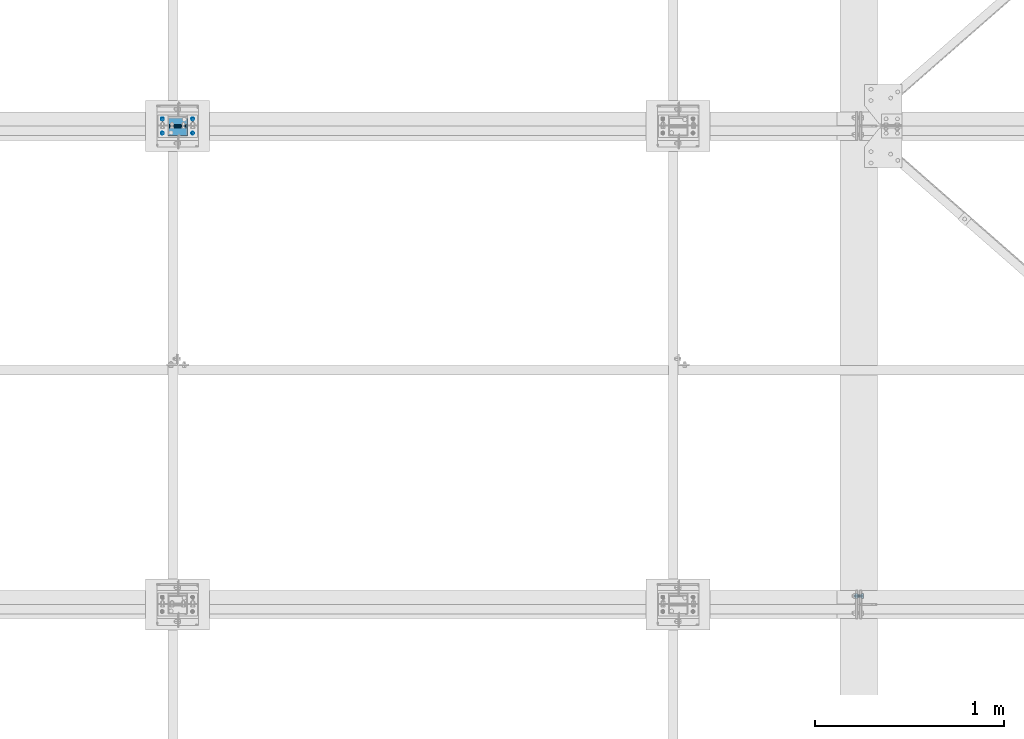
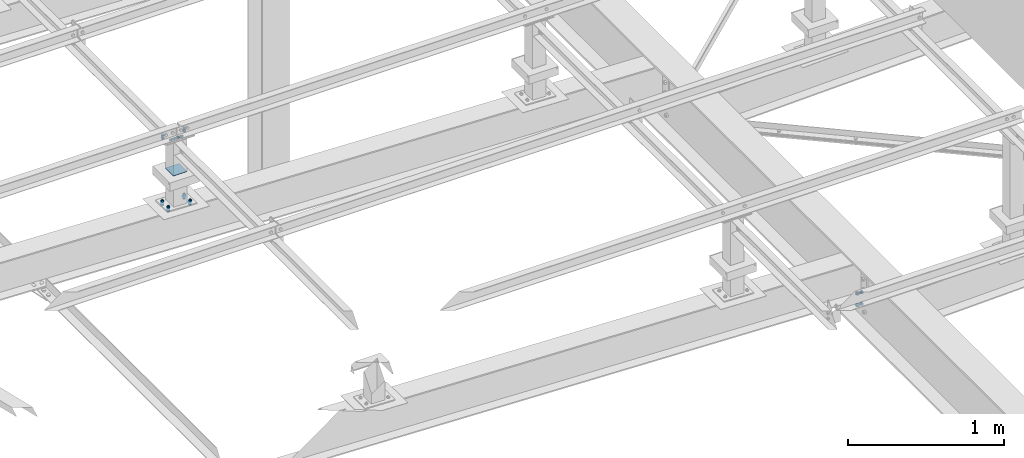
# One storey, part 79 of 3134: 6 mechanical fasteners, 4 elements without a shape of their own.
"""IFC2X3 building model written with IfcOpenShell, lengths in millimetres."""

from ifc_helpers import new_model, si_unit, frame, origin_with_axes, place, context, subcontext, project, spatial, faceted_brep, source, transform, mapped, material, type_object, element, aggregate, save


model = new_model("IFC2X3")

# Units and contexts
model_context = context("Model", 3, precision=1e-05, world=origin_with_axes())
body_context = subcontext(model_context, "Body", "Model", "MODEL_VIEW")
ifc_project = project(units=[si_unit("LENGTHUNIT", "METRE", prefix="MILLI"), si_unit("AREAUNIT", "SQUARE_METRE"), si_unit("VOLUMEUNIT", "CUBIC_METRE"), si_unit("MASSUNIT", "GRAM", prefix="KILO"), si_unit("TIMEUNIT", "SECOND"), si_unit("PLANEANGLEUNIT", "RADIAN"), si_unit("SOLIDANGLEUNIT", "STERADIAN"), si_unit("THERMODYNAMICTEMPERATUREUNIT", "DEGREE_CELSIUS"), si_unit("LUMINOUSINTENSITYUNIT", "LUMEN")], contexts=[model_context])

# Site, building, storey
site_placement = place(None, origin_with_axes())
site = spatial("IfcSite", under=ifc_project, at=site_placement, CompositionType="ELEMENT")
building_placement = place(site_placement, origin_with_axes())
building = spatial("IfcBuilding", under=site, at=building_placement, Name="Undefined", CompositionType="ELEMENT")
storey_placement = place(building_placement, origin_with_axes())
storey = spatial("IfcBuildingStorey", under=building, at=storey_placement, Name="Undefined", CompositionType="ELEMENT", Elevation=0.0)

# Assembly, mechanical fastener
assembly_1_placement = place(storey_placement, origin_with_axes())
assembly_1 = element("IfcElementAssembly", 1, at=assembly_1_placement, inside=storey, AssemblyPlace="NOTDEFINED", PredefinedType="RIGID_FRAME")
ifc_material_1 = material(Name="8.8")
mechanical_fastener_type = type_object("IfcMechanicalFastenerType", Name="Bolt assembly")
shared_shape_1 = source(origin_with_axes(), body_context, "Body", "Brep", [
    faceted_brep([(10.9696551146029, -14.0, 0.0), (5.48482755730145, -14.0, 9.5), (-5.48482755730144, -14.0, 9.5), (-10.9696551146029, -14.0, 1.34339530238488e-15), (-5.48482755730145, -14.0, -9.5), (5.48482755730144, -14.0, -9.50000000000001), (5.48482755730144, -6.0, -9.50000000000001), (-5.48482755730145, -6.0, -9.5), (-10.9696551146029, -6.0, 1.34339530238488e-15), (-5.48482755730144, -6.0, 9.5), (5.48482755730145, -6.0, 9.5), (10.9696551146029, -6.0, 0.0), (6.0, -6.0, 0.0), (5.19615242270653, -6.0, 3.00000000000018), (2.99999999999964, -6.0, 5.19615242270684), (-6.21801588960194e-13, -6.0, 6.0), (-3.00000000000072, -6.0, 5.19615242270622), (-5.19615242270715, -6.0, 2.9999999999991), (-6.0, -6.0, -1.24360317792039e-12), (-5.19615242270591, -6.0, -3.00000000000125), (-2.99999999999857, -6.0, -5.19615242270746), (1.85874342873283e-12, -6.0, -6.0), (3.00000000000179, -6.0, -5.1961524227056), (5.19615242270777, -6.0, -2.99999999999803), (5.19615242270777, 24.0, -2.99999999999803), (3.00000000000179, 24.0, -5.1961524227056), (1.85874342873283e-12, 24.0, -6.0), (-2.99999999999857, 24.0, -5.19615242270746), (-5.19615242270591, 24.0, -3.00000000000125), (-6.0, 24.0, -1.24360317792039e-12), (-5.19615242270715, 24.0, 2.9999999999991), (-3.00000000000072, 24.0, 5.19615242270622), (-6.21801588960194e-13, 24.0, 6.0), (2.99999999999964, 24.0, 5.19615242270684), (5.19615242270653, 24.0, 3.00000000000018), (6.0, 24.0, 0.0), (10.9696551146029, 6.00000000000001, 0.0), (5.48482755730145, 6.00000000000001, 9.5), (-5.48482755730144, 6.00000000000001, 9.5), (-10.9696551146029, 6.00000000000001, 1.34339530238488e-15), (-5.48482755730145, 6.00000000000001, -9.5), (5.48482755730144, 6.00000000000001, -9.50000000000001), (5.48482755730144, 16.0, -9.50000000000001), (-5.48482755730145, 16.0, -9.5), (-10.9696551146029, 16.0, 1.34339530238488e-15), (-5.48482755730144, 16.0, 9.5), (5.48482755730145, 16.0, 9.5), (10.9696551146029, 16.0, 0.0)], [[[0, 1, 2, 3, 4, 5]], [[6, 7, 8, 9, 10, 11]], [[0, 11, 10, 1]], [[1, 10, 9, 2]], [[2, 9, 8, 3]], [[3, 8, 7, 4]], [[4, 7, 6, 5]], [[5, 6, 11, 0]], [[12, 13, 14, 15, 16, 17, 18, 19, 20, 21, 22, 23]], [[24, 25, 26, 27, 28, 29, 30, 31, 32, 33, 34, 35]], [[12, 35, 34, 13]], [[13, 34, 33, 14]], [[14, 33, 32, 15]], [[15, 32, 31, 16]], [[16, 31, 30, 17]], [[17, 30, 29, 18]], [[18, 29, 28, 19]], [[19, 28, 27, 20]], [[20, 27, 26, 21]], [[21, 26, 25, 22]], [[22, 25, 24, 23]], [[23, 24, 35, 12]], [[36, 37, 38, 39, 40, 41]], [[42, 43, 44, 45, 46, 47]], [[36, 47, 46, 37]], [[37, 46, 45, 38]], [[38, 45, 44, 39]], [[39, 44, 43, 40]], [[40, 43, 42, 41]], [[41, 42, 47, 36]]]),
    faceted_brep([(7.0, -0.1, 0.0), (6.06217782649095, -0.1, 3.50000000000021), (3.49999999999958, -0.1, 6.06217782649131), (-7.25435187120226e-13, -0.1, 7.0), (-3.50000000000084, -0.1, 6.06217782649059), (-6.06217782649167, -0.1, 3.49999999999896), (-7.0, -0.1, -1.45087037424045e-12), (-6.06217782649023, -0.1, -3.50000000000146), (-3.49999999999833, -0.1, -6.06217782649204), (2.1685340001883e-12, -0.1, -7.0), (3.50000000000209, -0.1, -6.06217782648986), (6.0621778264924, -0.1, -3.4999999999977), (6.0621778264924, 6.00000000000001, -3.4999999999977), (3.50000000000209, 6.00000000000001, -6.06217782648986), (2.1685340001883e-12, 6.00000000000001, -7.0), (-3.49999999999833, 6.00000000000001, -6.06217782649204), (-6.06217782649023, 6.00000000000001, -3.50000000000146), (-7.0, 6.00000000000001, -1.45087037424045e-12), (-6.06217782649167, 6.00000000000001, 3.49999999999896), (-3.50000000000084, 6.00000000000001, 6.06217782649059), (-7.25435187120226e-13, 6.00000000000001, 7.0), (3.49999999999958, 6.00000000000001, 6.06217782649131), (6.06217782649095, 6.00000000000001, 3.50000000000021), (7.0, 6.00000000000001, 0.0), (7.0, -5.9, 0.0), (6.06217782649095, -5.9, 3.50000000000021), (3.49999999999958, -5.9, 6.06217782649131), (-7.25435187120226e-13, -5.9, 7.0), (-3.50000000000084, -5.9, 6.06217782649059), (-6.06217782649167, -5.9, 3.49999999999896), (-7.0, -5.9, -1.45087037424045e-12), (-6.06217782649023, -5.9, -3.50000000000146), (-3.49999999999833, -5.9, -6.06217782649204), (2.1685340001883e-12, -5.9, -7.0), (3.50000000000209, -5.9, -6.06217782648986), (6.0621778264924, -5.9, -3.4999999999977), (6.0621778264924, 0.0999999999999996, -3.4999999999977), (3.50000000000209, 0.0999999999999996, -6.06217782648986), (2.1685340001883e-12, 0.0999999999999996, -7.0), (-3.49999999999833, 0.0999999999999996, -6.06217782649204), (-6.06217782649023, 0.0999999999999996, -3.50000000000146), (-7.0, 0.0999999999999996, -1.45087037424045e-12), (-6.06217782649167, 0.0999999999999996, 3.49999999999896), (-3.50000000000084, 0.0999999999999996, 6.06217782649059), (-7.25435187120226e-13, 0.0999999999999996, 7.0), (3.49999999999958, 0.0999999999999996, 6.06217782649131), (6.06217782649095, 0.0999999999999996, 3.50000000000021), (7.0, 0.0999999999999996, 0.0)], [[[0, 1, 2, 3, 4, 5, 6, 7, 8, 9, 10, 11]], [[12, 13, 14, 15, 16, 17, 18, 19, 20, 21, 22, 23]], [[0, 23, 22, 1]], [[1, 22, 21, 2]], [[2, 21, 20, 3]], [[3, 20, 19, 4]], [[4, 19, 18, 5]], [[5, 18, 17, 6]], [[6, 17, 16, 7]], [[7, 16, 15, 8]], [[8, 15, 14, 9]], [[9, 14, 13, 10]], [[10, 13, 12, 11]], [[11, 12, 23, 0]], [[24, 25, 26, 27, 28, 29, 30, 31, 32, 33, 34, 35]], [[36, 37, 38, 39, 40, 41, 42, 43, 44, 45, 46, 47]], [[24, 47, 46, 25]], [[25, 46, 45, 26]], [[26, 45, 44, 27]], [[27, 44, 43, 28]], [[28, 43, 42, 29]], [[29, 42, 41, 30]], [[30, 41, 40, 31]], [[31, 40, 39, 32]], [[32, 39, 38, 33]], [[33, 38, 37, 34]], [[34, 37, 36, 35]], [[35, 36, 47, 24]]]),
])
mechanical_fastener_1_placement = place(assembly_1_placement, frame((5691.67, 24547.5, 4365.0), z_axis=(1.0, 0.0, 0.0), x_axis=(0.0, -1.0, 0.0)))
mechanical_fastener_1 = element("IfcMechanicalFastener", 2, at=mechanical_fastener_1_placement, type_object=mechanical_fastener_type, material=ifc_material_1, Name="Bolt assembly", NominalDiameter=12.0, NominalLength=30.0, context=body_context, shape_type="MappedRepresentation", body=[
    mapped(shared_shape_1, transform((0.0, -5.32963895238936e-10, -79.9999999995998))),
    mapped(shared_shape_1, transform((0.0, 5.3114490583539e-10, 79.9999999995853))),
])
aggregate(assembly_1, [mechanical_fastener_1])

assembly_2_placement = place(storey_placement, origin_with_axes())
assembly_2 = element("IfcElementAssembly", 3, at=assembly_2_placement, inside=storey, Name="IPE500", AssemblyPlace="NOTDEFINED", PredefinedType="RIGID_FRAME")
shared_shape_2 = source(origin_with_axes(), body_context, "Body", "Brep", [
    faceted_brep([(13.856406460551, -10.0, 0.0), (6.92820323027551, -10.0, 12.0), (-6.92820323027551, -10.0, 12.0), (-13.856406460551, -10.0, 1.69692038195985e-15), (-6.92820323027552, -10.0, -12.0), (6.9282032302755, -10.0, -12.0), (6.9282032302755, 0.0, -12.0), (-6.92820323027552, 0.0, -12.0), (-13.856406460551, 0.0, 1.69692038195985e-15), (-6.92820323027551, 0.0, 12.0), (6.92820323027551, 0.0, 12.0), (13.856406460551, 0.0, 0.0), (8.0, 0.0, 0.0), (6.92820323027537, 0.0, 4.00000000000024), (3.99999999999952, 0.0, 6.92820323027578), (-8.29068785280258e-13, 0.0, 8.0), (-4.00000000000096, 0.0, 6.92820323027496), (-6.9282032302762, 0.0, 3.99999999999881), (-8.0, 0.0, -1.65813757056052e-12), (-6.92820323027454, 0.0, -4.00000000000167), (-3.99999999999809, 0.0, -6.92820323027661), (2.47832457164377e-12, 0.0, -8.0), (4.00000000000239, 0.0, -6.92820323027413), (6.92820323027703, 0.0, -3.99999999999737), (6.92820323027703, 40.0, -3.99999999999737), (4.00000000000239, 40.0, -6.92820323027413), (2.47832457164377e-12, 40.0, -8.0), (-3.99999999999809, 40.0, -6.92820323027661), (-6.92820323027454, 40.0, -4.00000000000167), (-8.0, 40.0, -1.65813757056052e-12), (-6.9282032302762, 40.0, 3.99999999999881), (-4.00000000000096, 40.0, 6.92820323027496), (-8.29068785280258e-13, 40.0, 8.0), (3.99999999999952, 40.0, 6.92820323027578), (6.92820323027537, 40.0, 4.00000000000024), (8.0, 40.0, 0.0), (13.856406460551, 20.1999997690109, 0.0), (6.92820323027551, 20.1999997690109, 12.0), (-6.92820323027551, 20.1999997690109, 12.0), (-13.856406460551, 20.1999997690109, 1.69692038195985e-15), (-6.92820323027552, 20.1999997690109, -12.0), (6.9282032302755, 20.1999997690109, -12.0), (6.9282032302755, 33.1999997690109, -12.0), (-6.92820323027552, 33.1999997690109, -12.0), (-13.856406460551, 33.1999997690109, 1.69692038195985e-15), (-6.92820323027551, 33.1999997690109, 12.0), (6.92820323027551, 33.1999997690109, 12.0), (13.856406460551, 33.1999997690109, 0.0)], [[[0, 1, 2, 3, 4, 5]], [[6, 7, 8, 9, 10, 11]], [[0, 11, 10, 1]], [[1, 10, 9, 2]], [[2, 9, 8, 3]], [[3, 8, 7, 4]], [[4, 7, 6, 5]], [[5, 6, 11, 0]], [[12, 13, 14, 15, 16, 17, 18, 19, 20, 21, 22, 23]], [[24, 25, 26, 27, 28, 29, 30, 31, 32, 33, 34, 35]], [[12, 35, 34, 13]], [[13, 34, 33, 14]], [[14, 33, 32, 15]], [[15, 32, 31, 16]], [[16, 31, 30, 17]], [[17, 30, 29, 18]], [[18, 29, 28, 19]], [[19, 28, 27, 20]], [[20, 27, 26, 21]], [[21, 26, 25, 22]], [[22, 25, 24, 23]], [[23, 24, 35, 12]], [[36, 37, 38, 39, 40, 41]], [[42, 43, 44, 45, 46, 47]], [[36, 47, 46, 37]], [[37, 46, 45, 38]], [[38, 45, 44, 39]], [[39, 44, 43, 40]], [[40, 43, 42, 41]], [[41, 42, 47, 36]]]),
    faceted_brep([(9.0, 0.100000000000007, 0.0), (7.79422863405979, 0.100000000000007, 4.50000000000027), (4.49999999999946, 0.100000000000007, 7.79422863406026), (-9.3270238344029e-13, 0.100000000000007, 9.0), (-4.50000000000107, 0.100000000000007, 7.79422863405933), (-7.79422863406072, 0.100000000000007, 4.49999999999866), (-9.0, 0.100000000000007, -1.86540476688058e-12), (-7.79422863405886, 0.100000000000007, -4.50000000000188), (-4.49999999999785, 0.100000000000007, -7.79422863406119), (2.78811514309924e-12, 0.100000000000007, -9.0), (4.50000000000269, 0.100000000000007, -7.7942286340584), (7.79422863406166, 0.100000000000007, -4.49999999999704), (7.79422863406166, 10.1000023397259, -4.49999999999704), (4.50000000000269, 10.1000023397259, -7.7942286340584), (2.78811514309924e-12, 10.1000023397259, -9.0), (-4.49999999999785, 10.1000023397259, -7.79422863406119), (-7.79422863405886, 10.1000023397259, -4.50000000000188), (-9.0, 10.1000023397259, -1.86540476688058e-12), (-7.79422863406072, 10.1000023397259, 4.49999999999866), (-4.50000000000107, 10.1000023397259, 7.79422863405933), (-9.3270238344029e-13, 10.1000023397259, 9.0), (4.49999999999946, 10.1000023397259, 7.79422863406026), (7.79422863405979, 10.1000023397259, 4.50000000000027), (9.0, 10.1000023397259, 0.0), (9.0, 9.89999999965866, 0.0), (7.79422863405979, 9.89999999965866, 4.50000000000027), (4.49999999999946, 9.89999999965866, 7.79422863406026), (-9.3270238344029e-13, 9.89999999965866, 9.0), (-4.50000000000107, 9.89999999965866, 7.79422863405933), (-7.79422863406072, 9.89999999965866, 4.49999999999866), (-9.0, 9.89999999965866, -1.86540476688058e-12), (-7.79422863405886, 9.89999999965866, -4.50000000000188), (-4.49999999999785, 9.89999999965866, -7.79422863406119), (2.78811514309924e-12, 9.89999999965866, -9.0), (4.50000000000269, 9.89999999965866, -7.7942286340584), (7.79422863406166, 9.89999999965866, -4.49999999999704), (7.79422863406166, 20.1999997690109, -4.49999999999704), (4.50000000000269, 20.1999997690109, -7.7942286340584), (2.78811514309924e-12, 20.1999997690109, -9.0), (-4.49999999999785, 20.1999997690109, -7.79422863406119), (-7.79422863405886, 20.1999997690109, -4.50000000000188), (-9.0, 20.1999997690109, -1.86540476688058e-12), (-7.79422863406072, 20.1999997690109, 4.49999999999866), (-4.50000000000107, 20.1999997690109, 7.79422863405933), (-9.3270238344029e-13, 20.1999997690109, 9.0), (4.49999999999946, 20.1999997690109, 7.79422863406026), (7.79422863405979, 20.1999997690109, 4.50000000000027), (9.0, 20.1999997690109, 0.0)], [[[0, 1, 2, 3, 4, 5, 6, 7, 8, 9, 10, 11]], [[12, 13, 14, 15, 16, 17, 18, 19, 20, 21, 22, 23]], [[0, 23, 22, 1]], [[1, 22, 21, 2]], [[2, 21, 20, 3]], [[3, 20, 19, 4]], [[4, 19, 18, 5]], [[5, 18, 17, 6]], [[6, 17, 16, 7]], [[7, 16, 15, 8]], [[8, 15, 14, 9]], [[9, 14, 13, 10]], [[10, 13, 12, 11]], [[11, 12, 23, 0]], [[24, 25, 26, 27, 28, 29, 30, 31, 32, 33, 34, 35]], [[36, 37, 38, 39, 40, 41, 42, 43, 44, 45, 46, 47]], [[24, 47, 46, 25]], [[25, 46, 45, 26]], [[26, 45, 44, 27]], [[27, 44, 43, 28]], [[28, 43, 42, 29]], [[29, 42, 41, 30]], [[30, 41, 40, 31]], [[31, 40, 39, 32]], [[32, 39, 38, 33]], [[33, 38, 37, 34]], [[34, 37, 36, 35]], [[35, 36, 47, 24]]]),
])
mechanical_fastener_2_placement = place(assembly_2_placement, frame((9310.09999986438, 22026.25, 3381.67000001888), z_axis=(0.0, 1.0, 0.0), x_axis=(0.0, 0.0, -1.0)))
mechanical_fastener_2 = element("IfcMechanicalFastener", 4, at=mechanical_fastener_2_placement, type_object=mechanical_fastener_type, material=ifc_material_1, Name="Bolt assembly", NominalDiameter=16.0, NominalLength=40.0, context=body_context, shape_type="MappedRepresentation", body=[
    mapped(shared_shape_2, transform((0.0, 0.0, 0.0))),
    mapped(shared_shape_2, transform((90.0, 0.0, 0.0))),
])
aggregate(assembly_2, [mechanical_fastener_2])

assembly_3_placement = place(storey_placement, origin_with_axes())
assembly_3 = element("IfcElementAssembly", 5, at=assembly_3_placement, inside=storey, AssemblyPlace="NOTDEFINED", PredefinedType="RIGID_FRAME")
shared_shape_3 = source(origin_with_axes(), body_context, "Body", "Brep", [
    faceted_brep([(10.9696551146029, -4.18280906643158, 0.0), (5.48482755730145, -4.18280906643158, 9.5), (-5.48482755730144, -4.18280906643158, 9.5), (-10.9696551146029, -4.18280906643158, 1.34339530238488e-15), (-5.48482755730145, -4.18280906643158, -9.5), (5.48482755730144, -4.18280906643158, -9.50000000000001), (5.48482755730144, 3.81719093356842, -9.50000000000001), (-5.48482755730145, 3.81719093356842, -9.5), (-10.9696551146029, 3.81719093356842, 1.34339530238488e-15), (-5.48482755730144, 3.81719093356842, 9.5), (5.48482755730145, 3.81719093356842, 9.5), (10.9696551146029, 3.81719093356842, 0.0), (6.0, 3.81719093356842, 0.0), (5.19615242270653, 3.81719093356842, 3.00000000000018), (2.99999999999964, 3.81719093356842, 5.19615242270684), (-6.21801588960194e-13, 3.81719093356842, 6.0), (-3.00000000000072, 3.81719093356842, 5.19615242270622), (-5.19615242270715, 3.81719093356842, 2.9999999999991), (-6.0, 3.81719093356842, -1.24360317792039e-12), (-5.19615242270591, 3.81719093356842, -3.00000000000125), (-2.99999999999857, 3.81719093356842, -5.19615242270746), (1.85874342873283e-12, 3.81719093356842, -6.0), (3.00000000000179, 3.81719093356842, -5.1961524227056), (5.19615242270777, 3.81719093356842, -2.99999999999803), (5.19615242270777, 38.8171909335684, -2.99999999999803), (3.00000000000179, 38.8171909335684, -5.1961524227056), (1.85874342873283e-12, 38.8171909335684, -6.0), (-2.99999999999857, 38.8171909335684, -5.19615242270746), (-5.19615242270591, 38.8171909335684, -3.00000000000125), (-6.0, 38.8171909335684, -1.24360317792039e-12), (-5.19615242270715, 38.8171909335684, 2.9999999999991), (-3.00000000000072, 38.8171909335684, 5.19615242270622), (-6.21801588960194e-13, 38.8171909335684, 6.0), (2.99999999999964, 38.8171909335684, 5.19615242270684), (5.19615242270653, 38.8171909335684, 3.00000000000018), (6.0, 38.8171909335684, 0.0), (10.9696551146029, 23.0139082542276, 0.0), (5.48482755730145, 23.0139082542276, 9.5), (-5.48482755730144, 23.0139082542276, 9.5), (-10.9696551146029, 23.0139082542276, 1.34339530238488e-15), (-5.48482755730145, 23.0139082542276, -9.5), (5.48482755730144, 23.0139082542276, -9.50000000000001), (5.48482755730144, 33.0139082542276, -9.50000000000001), (-5.48482755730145, 33.0139082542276, -9.5), (-10.9696551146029, 33.0139082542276, 1.34339530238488e-15), (-5.48482755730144, 33.0139082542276, 9.5), (5.48482755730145, 33.0139082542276, 9.5), (10.9696551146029, 33.0139082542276, 0.0)], [[[0, 1, 2, 3, 4, 5]], [[6, 7, 8, 9, 10, 11]], [[0, 11, 10, 1]], [[1, 10, 9, 2]], [[2, 9, 8, 3]], [[3, 8, 7, 4]], [[4, 7, 6, 5]], [[5, 6, 11, 0]], [[12, 13, 14, 15, 16, 17, 18, 19, 20, 21, 22, 23]], [[24, 25, 26, 27, 28, 29, 30, 31, 32, 33, 34, 35]], [[12, 35, 34, 13]], [[13, 34, 33, 14]], [[14, 33, 32, 15]], [[15, 32, 31, 16]], [[16, 31, 30, 17]], [[17, 30, 29, 18]], [[18, 29, 28, 19]], [[19, 28, 27, 20]], [[20, 27, 26, 21]], [[21, 26, 25, 22]], [[22, 25, 24, 23]], [[23, 24, 35, 12]], [[36, 37, 38, 39, 40, 41]], [[42, 43, 44, 45, 46, 47]], [[36, 47, 46, 37]], [[37, 46, 45, 38]], [[38, 45, 44, 39]], [[39, 44, 43, 40]], [[40, 43, 42, 41]], [[41, 42, 47, 36]]]),
    faceted_brep([(7.0, 3.91719093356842, 0.0), (6.06217782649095, 3.91719093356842, 3.50000000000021), (3.49999999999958, 3.91719093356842, 6.06217782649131), (-7.25435187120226e-13, 3.91719093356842, 7.0), (-3.50000000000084, 3.91719093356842, 6.06217782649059), (-6.06217782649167, 3.91719093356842, 3.49999999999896), (-7.0, 3.91719093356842, -1.45087037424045e-12), (-6.06217782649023, 3.91719093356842, -3.50000000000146), (-3.49999999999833, 3.91719093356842, -6.06217782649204), (2.1685340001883e-12, 3.91719093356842, -7.0), (3.50000000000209, 3.91719093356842, -6.06217782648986), (6.0621778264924, 3.91719093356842, -3.4999999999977), (6.0621778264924, 13.1171907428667, -3.4999999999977), (3.50000000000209, 13.1171907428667, -6.06217782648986), (2.1685340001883e-12, 13.1171907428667, -7.0), (-3.49999999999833, 13.1171907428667, -6.06217782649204), (-6.06217782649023, 13.1171907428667, -3.50000000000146), (-7.0, 13.1171907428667, -1.45087037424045e-12), (-6.06217782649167, 13.1171907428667, 3.49999999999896), (-3.50000000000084, 13.1171907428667, 6.06217782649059), (-7.25435187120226e-13, 13.1171907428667, 7.0), (3.49999999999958, 13.1171907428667, 6.06217782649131), (6.06217782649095, 13.1171907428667, 3.50000000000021), (7.0, 13.1171907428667, 0.0), (7.0, 14.9139082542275, 0.0), (6.06217782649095, 14.9139082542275, 3.50000000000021), (3.49999999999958, 14.9139082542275, 6.06217782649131), (-7.25435187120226e-13, 14.9139082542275, 7.0), (-3.50000000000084, 14.9139082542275, 6.06217782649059), (-6.06217782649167, 14.9139082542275, 3.49999999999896), (-7.0, 14.9139082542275, -1.45087037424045e-12), (-6.06217782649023, 14.9139082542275, -3.50000000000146), (-3.49999999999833, 14.9139082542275, -6.06217782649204), (2.1685340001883e-12, 14.9139082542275, -7.0), (3.50000000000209, 14.9139082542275, -6.06217782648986), (6.0621778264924, 14.9139082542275, -3.4999999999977), (6.0621778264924, 23.0139082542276, -3.4999999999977), (3.50000000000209, 23.0139082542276, -6.06217782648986), (2.1685340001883e-12, 23.0139082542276, -7.0), (-3.49999999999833, 23.0139082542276, -6.06217782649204), (-6.06217782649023, 23.0139082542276, -3.50000000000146), (-7.0, 23.0139082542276, -1.45087037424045e-12), (-6.06217782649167, 23.0139082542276, 3.49999999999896), (-3.50000000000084, 23.0139082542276, 6.06217782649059), (-7.25435187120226e-13, 23.0139082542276, 7.0), (3.49999999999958, 23.0139082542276, 6.06217782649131), (6.06217782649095, 23.0139082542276, 3.50000000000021), (7.0, 23.0139082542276, 0.0)], [[[0, 1, 2, 3, 4, 5, 6, 7, 8, 9, 10, 11]], [[12, 13, 14, 15, 16, 17, 18, 19, 20, 21, 22, 23]], [[0, 23, 22, 1]], [[1, 22, 21, 2]], [[2, 21, 20, 3]], [[3, 20, 19, 4]], [[4, 19, 18, 5]], [[5, 18, 17, 6]], [[6, 17, 16, 7]], [[7, 16, 15, 8]], [[8, 15, 14, 9]], [[9, 14, 13, 10]], [[10, 13, 12, 11]], [[11, 12, 23, 0]], [[24, 25, 26, 27, 28, 29, 30, 31, 32, 33, 34, 35]], [[36, 37, 38, 39, 40, 41, 42, 43, 44, 45, 46, 47]], [[24, 47, 46, 25]], [[25, 46, 45, 26]], [[26, 45, 44, 27]], [[27, 44, 43, 28]], [[28, 43, 42, 29]], [[29, 42, 41, 30]], [[30, 41, 40, 31]], [[31, 40, 39, 32]], [[32, 39, 38, 33]], [[33, 38, 37, 34]], [[34, 37, 36, 35]], [[35, 36, 47, 24]]]),
])
mechanical_fastener_3_placement = place(assembly_3_placement, frame((5690.86474073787, 24550.4999999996, 3827.79222028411), z_axis=(-0.999387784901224, 0.0, 0.0349865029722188), x_axis=(0.0, -1.0, 0.0)))
mechanical_fastener_3 = element("IfcMechanicalFastener", 6, at=mechanical_fastener_3_placement, type_object=mechanical_fastener_type, material=ifc_material_1, Name="Bolt assembly", NominalDiameter=12.0, NominalLength=35.0, context=body_context, shape_type="MappedRepresentation", body=[
    mapped(shared_shape_3, transform((0.0, -5.32963895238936e-10, -79.9999999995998))),
    mapped(shared_shape_3, transform((76.0, -5.32963895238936e-10, -79.9999999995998))),
    mapped(shared_shape_3, transform((0.0, 5.3114490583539e-10, 79.9999999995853))),
    mapped(shared_shape_3, transform((76.0, 5.3114490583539e-10, 79.9999999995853))),
])

assembly_4_placement = place(storey_placement, origin_with_axes())
assembly_4 = element("IfcElementAssembly", 7, at=assembly_4_placement, inside=storey, AssemblyPlace="NOTDEFINED", PredefinedType="RIGID_FRAME")
shared_shape_4 = source(origin_with_axes(), body_context, "Body", "Brep", [
    faceted_brep([(7.0, 13.0000253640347, 0.0), (6.06217782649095, 13.0000253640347, 3.50000000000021), (3.49999999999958, 13.0000253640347, 6.06217782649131), (-7.25435187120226e-13, 13.0000253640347, 7.0), (-3.50000000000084, 13.0000253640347, 6.06217782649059), (-6.06217782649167, 13.0000253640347, 3.49999999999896), (-7.0, 13.0000253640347, -1.45087037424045e-12), (-6.06217782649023, 13.0000253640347, -3.50000000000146), (-3.49999999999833, 13.0000253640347, -6.06217782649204), (2.1685340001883e-12, 13.0000253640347, -7.0), (3.50000000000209, 13.0000253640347, -6.06217782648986), (6.0621778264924, 13.0000253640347, -3.4999999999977), (6.0621778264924, 15.0999999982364, -3.4999999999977), (3.50000000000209, 15.0999999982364, -6.06217782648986), (2.1685340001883e-12, 15.0999999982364, -7.0), (-3.49999999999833, 15.0999999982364, -6.06217782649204), (-6.06217782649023, 15.0999999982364, -3.50000000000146), (-7.0, 15.0999999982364, -1.45087037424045e-12), (-6.06217782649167, 15.0999999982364, 3.49999999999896), (-3.50000000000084, 15.0999999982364, 6.06217782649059), (-7.25435187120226e-13, 15.0999999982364, 7.0), (3.49999999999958, 15.0999999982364, 6.06217782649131), (6.06217782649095, 15.0999999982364, 3.50000000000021), (7.0, 15.0999999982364, 0.0)], [[[0, 1, 2, 3, 4, 5, 6, 7, 8, 9, 10, 11]], [[12, 13, 14, 15, 16, 17, 18, 19, 20, 21, 22, 23]], [[0, 23, 22, 1]], [[1, 22, 21, 2]], [[2, 21, 20, 3]], [[3, 20, 19, 4]], [[4, 19, 18, 5]], [[5, 18, 17, 6]], [[6, 17, 16, 7]], [[7, 16, 15, 8]], [[8, 15, 14, 9]], [[9, 14, 13, 10]], [[10, 13, 12, 11]], [[11, 12, 23, 0]]]),
])
mechanical_fastener_4_placement = place(assembly_4_placement, frame((5690.86474073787, 24550.4999999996, 3827.79222028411), z_axis=(-0.999387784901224, 0.0, 0.0349865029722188), x_axis=(0.0, -1.0, 0.0)))
mechanical_fastener_4 = element("IfcMechanicalFastener", 8, at=mechanical_fastener_4_placement, type_object=mechanical_fastener_type, material=ifc_material_1, Name="Bolt assembly", NominalDiameter=12.0, NominalLength=2.0, context=body_context, shape_type="MappedRepresentation", body=[
    mapped(shared_shape_4, transform((0.0, -5.32963895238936e-10, -79.9999999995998))),
    mapped(shared_shape_4, transform((76.0, -5.32963895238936e-10, -79.9999999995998))),
    mapped(shared_shape_4, transform((0.0, 5.3114490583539e-10, 79.9999999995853))),
    mapped(shared_shape_4, transform((76.0, 5.3114490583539e-10, 79.9999999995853))),
])
aggregate(assembly_4, [mechanical_fastener_4])

# Mechanical fastener
shared_shape_5 = source(origin_with_axes(), body_context, "Body", "Brep", [
    faceted_brep([(9.0, -50.0, 0.0), (7.79422863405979, -50.0, 4.50000000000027), (4.49999999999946, -50.0, 7.79422863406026), (-9.3270238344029e-13, -50.0, 9.0), (-4.50000000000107, -50.0, 7.79422863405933), (-7.79422863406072, -50.0, 4.49999999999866), (-9.0, -50.0, -1.86540476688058e-12), (-7.79422863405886, -50.0, -4.50000000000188), (-4.49999999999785, -50.0, -7.79422863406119), (2.78811514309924e-12, -50.0, -9.0), (4.50000000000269, -50.0, -7.7942286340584), (7.79422863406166, -50.0, -4.49999999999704), (7.79422863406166, 50.1, -4.49999999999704), (4.50000000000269, 50.1, -7.7942286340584), (2.78811514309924e-12, 50.1, -9.0), (-4.49999999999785, 50.1, -7.79422863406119), (-7.79422863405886, 50.1, -4.50000000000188), (-9.0, 50.1, -1.86540476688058e-12), (-7.79422863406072, 50.1, 4.49999999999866), (-4.50000000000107, 50.1, 7.79422863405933), (-9.3270238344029e-13, 50.1, 9.0), (4.49999999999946, 50.1, 7.79422863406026), (7.79422863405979, 50.1, 4.50000000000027), (9.0, 50.1, 0.0)], [[[0, 1, 2, 3, 4, 5, 6, 7, 8, 9, 10, 11]], [[12, 13, 14, 15, 16, 17, 18, 19, 20, 21, 22, 23]], [[0, 23, 22, 1]], [[1, 22, 21, 2]], [[2, 21, 20, 3]], [[3, 20, 19, 4]], [[4, 19, 18, 5]], [[5, 18, 17, 6]], [[6, 17, 16, 7]], [[7, 16, 15, 8]], [[8, 15, 14, 9]], [[9, 14, 13, 10]], [[10, 13, 12, 11]], [[11, 12, 23, 0]]]),
])
mechanical_fastener_5_placement = place(assembly_3_placement, frame((5691.67, 24512.5, 4345.0), z_axis=(0.0, 1.0, 0.0), x_axis=(0.0, 0.0, 1.0)))
mechanical_fastener_5 = element("IfcMechanicalFastener", 9, at=mechanical_fastener_5_placement, type_object=mechanical_fastener_type, material=ifc_material_1, Name="Bolt assembly", NominalDiameter=16.0, NominalLength=100.0, context=body_context, shape_type="MappedRepresentation", body=[
    mapped(shared_shape_5, transform((0.0, 0.0, 0.0))),
])

ifc_material_2 = material(Name="6.8")
shared_shape_6 = source(origin_with_axes(), body_context, "Body", "Brep", [
    faceted_brep([(51.5, 1.36424205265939e-12, 50.0), (51.3858192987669, 1.36424205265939e-12, 50.5740251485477), (51.0606601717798, 1.36424205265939e-12, 51.0606601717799), (50.5740251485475, 1.36424205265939e-12, 51.385819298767), (-50.0000000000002, 1.36424205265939e-12, 51.5), (-50.7500000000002, 1.36424205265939e-12, 51.2990381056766), (-51.2990381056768, 1.36424205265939e-12, 50.7499999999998), (-51.5, 1.36424205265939e-12, 49.9999999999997), (-51.5, 1.36424205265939e-12, -50.0000000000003), (-51.2990381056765, 1.36424205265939e-12, -50.7500000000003), (-50.7499999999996, 1.36424205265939e-12, -51.2990381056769), (-49.9999999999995, 1.36424205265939e-12, -51.5), (50.0000000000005, 1.36424205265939e-12, -51.5), (50.7500000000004, 1.36424205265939e-12, -51.2990381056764), (51.2990381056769, 1.36424205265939e-12, -50.7499999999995), (51.5, 1.36424205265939e-12, -49.9999999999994), (51.5, 5.10000000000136, -49.9999999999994), (51.2990381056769, 5.10000000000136, -50.7499999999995), (50.7500000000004, 5.10000000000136, -51.2990381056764), (50.0000000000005, 5.10000000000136, -51.5), (-49.9999999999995, 5.10000000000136, -51.5), (-50.7499999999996, 5.10000000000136, -51.2990381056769), (-51.2990381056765, 5.10000000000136, -50.7500000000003), (-51.5, 5.10000000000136, -50.0000000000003), (-51.5, 5.10000000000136, 49.9999999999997), (-51.2990381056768, 5.10000000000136, 50.7499999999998), (-50.7500000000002, 5.10000000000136, 51.2990381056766), (-50.0000000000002, 5.10000000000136, 51.5), (50.5740251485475, 5.10000000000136, 51.385819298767), (51.0606601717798, 5.10000000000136, 51.0606601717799), (51.3858192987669, 5.10000000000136, 50.5740251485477), (51.5, 5.10000000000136, 50.0)], [[[0, 1, 2, 3, 4, 5, 6, 7, 8, 9, 10, 11, 12, 13, 14, 15]], [[16, 17, 18, 19, 20, 21, 22, 23, 24, 25, 26, 27, 28, 29, 30, 31]], [[0, 31, 30, 1]], [[1, 30, 29, 2]], [[2, 29, 28, 3]], [[3, 28, 27, 4]], [[4, 27, 26, 5]], [[5, 26, 25, 6]], [[6, 25, 24, 7]], [[7, 24, 23, 8]], [[8, 23, 22, 9]], [[9, 22, 21, 10]], [[10, 21, 20, 11]], [[11, 20, 19, 12]], [[12, 19, 18, 13]], [[13, 18, 17, 14]], [[14, 17, 16, 15]], [[15, 16, 31, 0]]]),
])
mechanical_fastener_6_placement = place(assembly_3_placement, frame((5691.66156415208, 24512.5, 4097.5922136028), z_axis=(0.0, -1.0, 0.0), x_axis=(-1.0, 0.0, 0.0)))
mechanical_fastener_6 = element("IfcMechanicalFastener", 10, at=mechanical_fastener_6_placement, type_object=mechanical_fastener_type, material=ifc_material_2, Name="Bolt assembly", NominalDiameter=10.0, NominalLength=5.0, context=body_context, shape_type="MappedRepresentation", body=[
    mapped(shared_shape_6, transform((0.0, 0.0, 0.0))),
])

aggregate(assembly_3, [mechanical_fastener_3, mechanical_fastener_5, mechanical_fastener_6])

save(model, "model.ifc")
